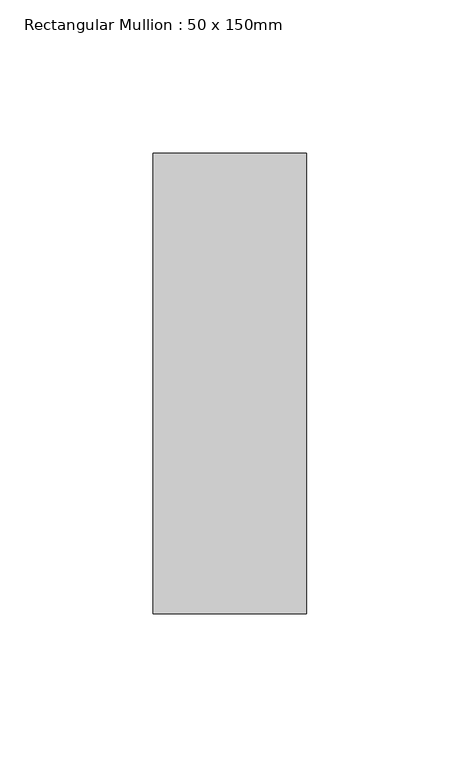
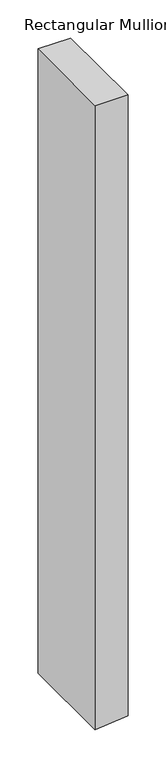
"""IFC4 building model written with IfcOpenShell, lengths in millimetres: member geometry, Rectangular Mullion : 50 x 150mm."""

from ifc_helpers import new_model, si_unit, frame, origin, place, context, project, spatial, polyline, outline, extrude, source, transform, mapped, element, save


def rectangular_mullion_50_x_150mm_4e5277b7(model_context):
    return source(origin(), model_context, "Body", "SweptSolid", [
        extrude(outline(polyline([(0.0, 25.0), (0.0, -25.0), (-1001.6069826, -25.0), (-999.5962155, -5.0022633), (-996.5794959, 25.0), (0.0, 25.0)])), frame((0.0, -75.0, 0.0), z_axis=(0.0, 1.0, 0.0), x_axis=(0.0, 0.0, 1.0)), (0.0, 0.0, 1.0), 150.0),
    ])


if __name__ == "__main__":
    model = new_model("IFC4")
    model_context = context("Model", 3, world=origin())
    ifc_project = project(units=[si_unit("LENGTHUNIT", "METRE", prefix="MILLI")], contexts=[model_context])
    site = spatial("IfcSite", under=ifc_project)
    building = spatial("IfcBuilding", under=site)
    placement = place(None, origin())
    rectangular_mullion_50_x_150mm_shape = rectangular_mullion_50_x_150mm_4e5277b7(model_context)
    element("IfcMember", 1, ObjectType="Rectangular Mullion : 50 x 150mm", at=placement, inside=building, context=model_context, shape_type="MappedRepresentation", body=[
        mapped(rectangular_mullion_50_x_150mm_shape, transform((0.0, 0.0, 0.0), x_axis=(1.0, 0.0, 0.0), y_axis=(0.0, 1.0, 0.0), z_axis=(0.0, 0.0, 1.0))),
    ])
    save(model, "model.ifc")
